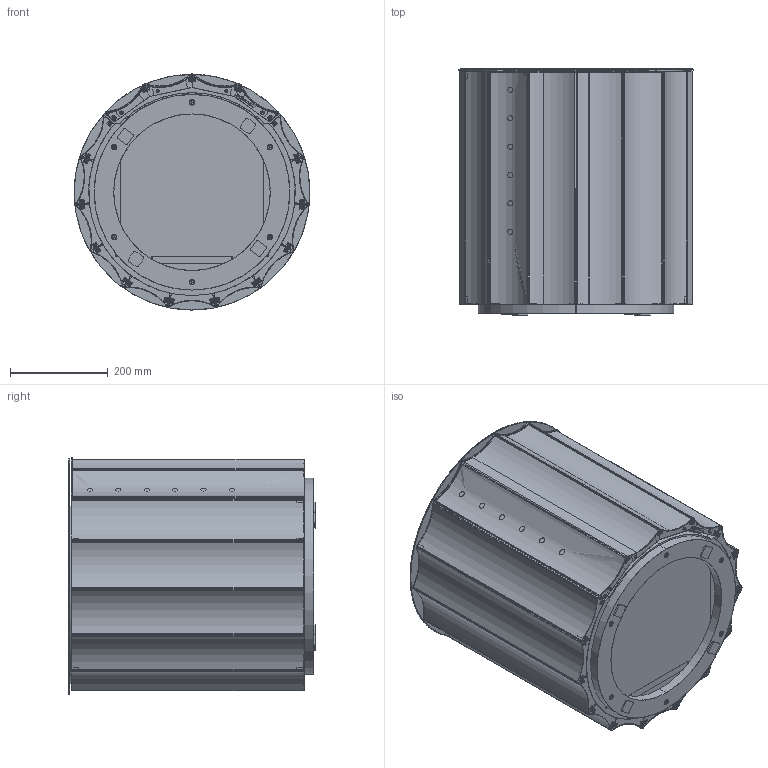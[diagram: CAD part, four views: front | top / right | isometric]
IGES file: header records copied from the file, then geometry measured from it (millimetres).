
Start section: SolidWorks IGES file using analytic representation for surfaces
Global section: file name: \\192.168.0.53\Reserch Development\SITO WEB\2024\File 2D 3D\Prodotti\3D\De Castelli-3D-dorica comodino.IGS; native system: SolidWorks 2025; preprocessor: SolidWorks 2025; author: lauraa; date: 260407.101445; units: millimetre
Bounding box: 482 x 503 x 482.84 mm (x, y, z)
Surface area: 3065381.5 mm2 (no closed solid volume)
Topology: 0 solids, 0 shells, 716 faces, 11273 edges, 11273 vertices
Faces by surface type: bspline 400, revolution 316
